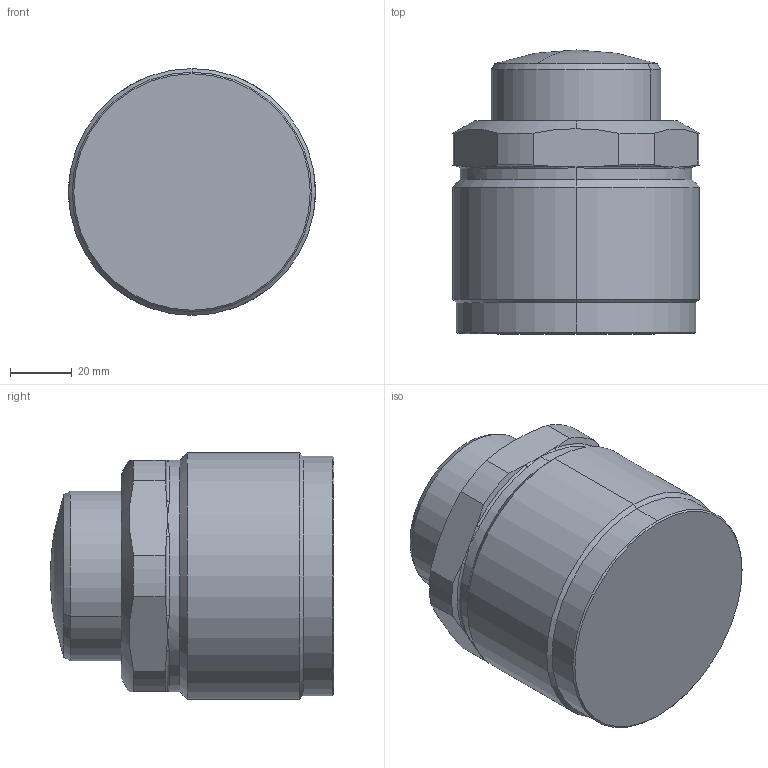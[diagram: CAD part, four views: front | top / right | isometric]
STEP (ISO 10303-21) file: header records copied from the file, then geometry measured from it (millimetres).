
FILE_DESCRIPTION((' '),'2;1');
FILE_NAME( 'CMC60-16R.x_t.stp', '2024-08-27T13:58:41', (' '), ('--- Datakit www.datakit.com---'), ' Datakit CrossCadWare V2024.1 Dec 21 2023', 'Mastercam 2025', ' ');
FILE_SCHEMA(('AUTOMOTIVE_DESIGN { 1 0 10303 214 1 1 1 1 }'));
Length unit declared in the file: millimetre
Products named in the file (1): CMC60-16R
Bounding box: 80 x 92 x 80 mm (x, y, z)
Volume: 344525.9 mm3; surface area: 37111.1 mm2
Topology: 2 solids, 2 shells, 62 faces, 155 edges, 84 vertices
Faces by surface type: cylinder 16, cone 16, bspline 12, plane 10, torus 6, sphere 2
Entity records: 3649 total; most frequent: CARTESIAN_POINT 2288, ORIENTED_EDGE 282, DIRECTION 264, EDGE_CURVE 141, AXIS2_PLACEMENT_3D 116, VERTEX_POINT 84, CIRCLE 65, EDGE_LOOP 63
